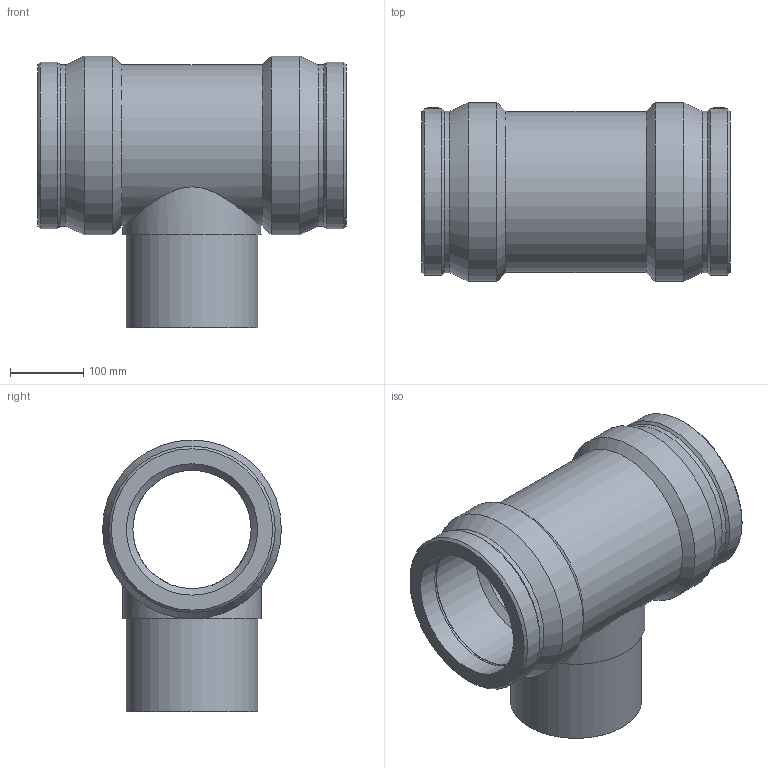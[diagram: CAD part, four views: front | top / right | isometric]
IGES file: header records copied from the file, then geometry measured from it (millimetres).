
Global section: file name: 490404180.ipt; native system: Autodesk Inventor 2015; preprocessor: unknown; author: KIM; date: 20171106.093618; units: millimetre
Bounding box: 422 x 245 x 372.5 mm (x, y, z)
Volume: 8536846.5 mm3; surface area: 717971.7 mm2
Topology: 1 solids, 1 shells, 45 faces, 101 edges, 66 vertices
Faces by surface type: plane 12, revolution 12, cylinder 11, cone 10
Full cylindrical faces by diameter (mm): 4 x2, 180 x1, 189 x1, 220.5 x1, 221.014 x2, 227.85 x2, 245 x2
